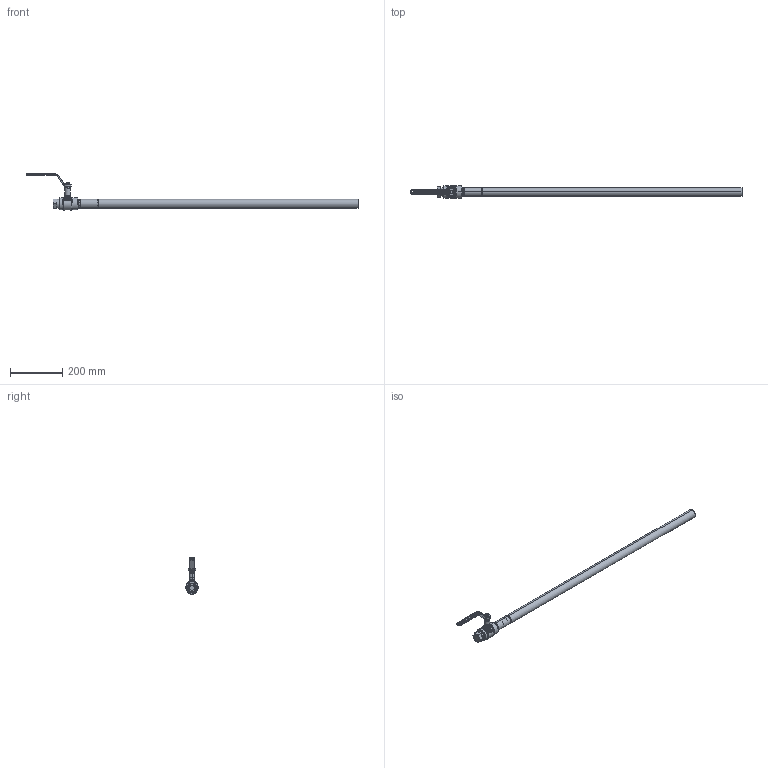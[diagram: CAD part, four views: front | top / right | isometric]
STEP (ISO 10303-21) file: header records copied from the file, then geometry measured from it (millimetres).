
FILE_DESCRIPTION((''),'2;1');
FILE_NAME('KHMO-ELE-25R20-SZ-H','2024-04-18T11:23:00',('jeitlers'),('KLINGER'),'CREO PARAMETRIC BY PTC INC, 2023014','CREO PARAMETRIC BY PTC INC, 2023014','');
FILE_SCHEMA(('CONFIG_CONTROL_DESIGN'));
Products named in the file (1): KHMO-ELE-25R20-SZ-H
Bounding box: 1275 x 49 x 139 mm (x, y, z)
Volume: 418258.4 mm3; surface area: 263136 mm2
Topology: 1 solids, 1 shells, 650 faces, 1503 edges, 868 vertices
Faces by surface type: cylinder 208, bspline 142, plane 120, torus 95, cone 72, sphere 8, extrusion 5
Entity records: 36394 total; most frequent: CARTESIAN_POINT 22555, ORIENTED_EDGE 3002, DIRECTION 2761, EDGE_CURVE 1501, AXIS2_PLACEMENT_3D 1147, VERTEX_POINT 868, EDGE_LOOP 681, FACE_OUTER_BOUND 650
